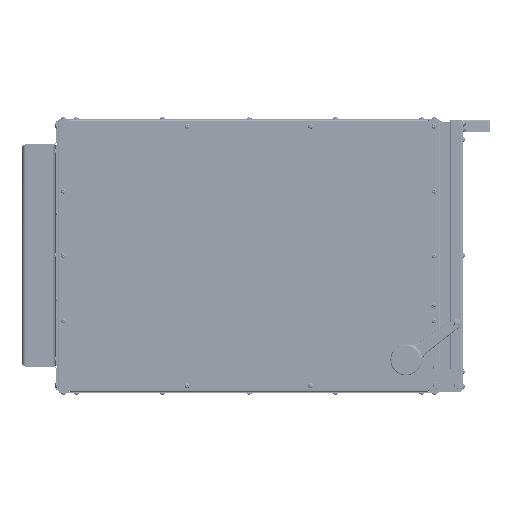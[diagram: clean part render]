
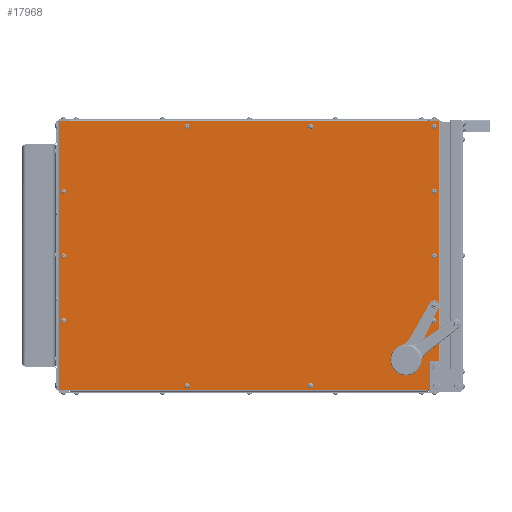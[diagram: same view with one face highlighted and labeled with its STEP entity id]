
A CAD part, front view. The second image highlights one B-rep face of the part: STEP entity #17968.
In plain terms, the highlighted planar face has unit normal (0, -1, 0).
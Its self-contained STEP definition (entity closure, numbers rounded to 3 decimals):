
#17968=ADVANCED_FACE('',(#32085),#32087,.T.);
#32085=FACE_BOUND('',#32086,.T.);
#32086=EDGE_LOOP('',(#45880,#45881,#45882,#45883));
#32087=PLANE('',#32088);
#32088=AXIS2_PLACEMENT_3D('',#32089,#32090,#32091);
#32089=CARTESIAN_POINT('',(0.,-1.2,0.));
#32090=DIRECTION('',(0.,-1.,0.));
#32091=DIRECTION('',(1.,0.,0.));
#45880=ORIENTED_EDGE('',*,*,#52339,.T.);
#45881=ORIENTED_EDGE('',*,*,#52343,.T.);
#45882=ORIENTED_EDGE('',*,*,#52346,.T.);
#45883=ORIENTED_EDGE('',*,*,#52348,.T.);
#52339=EDGE_CURVE('',#57075,#57073,#57076,.T.);
#52343=EDGE_CURVE('',#57073,#57080,#57082,.T.);
#52346=EDGE_CURVE('',#57080,#57085,#57087,.T.);
#52348=EDGE_CURVE('',#57085,#57075,#57089,.T.);
#57073=VERTEX_POINT('',#66587);
#57075=VERTEX_POINT('',#66591);
#57076=LINE('',#66592,#66593);
#57080=VERTEX_POINT('',#66602);
#57082=LINE('',#66606,#66607);
#57085=VERTEX_POINT('',#66613);
#57087=LINE('',#66617,#66618);
#57089=LINE('',#66623,#66624);
#66587=CARTESIAN_POINT('',(-607.75,-1.2,7.75));
#66591=CARTESIAN_POINT('',(7.75,-1.2,7.75));
#66592=CARTESIAN_POINT('',(7.75,-1.2,7.75));
#66593=VECTOR('',#66594,1.);
#66594=DIRECTION('',(-1.,0.,0.));
#66602=CARTESIAN_POINT('',(-607.75,-1.2,-427.75));
#66606=CARTESIAN_POINT('',(-607.75,-1.2,7.75));
#66607=VECTOR('',#66608,1.);
#66608=DIRECTION('',(0.,0.,-1.));
#66613=CARTESIAN_POINT('',(7.75,-1.2,-427.75));
#66617=CARTESIAN_POINT('',(-607.75,-1.2,-427.75));
#66618=VECTOR('',#66619,1.);
#66619=DIRECTION('',(1.,0.,0.));
#66623=CARTESIAN_POINT('',(7.75,-1.2,-427.75));
#66624=VECTOR('',#66625,1.);
#66625=DIRECTION('',(0.,0.,1.));
